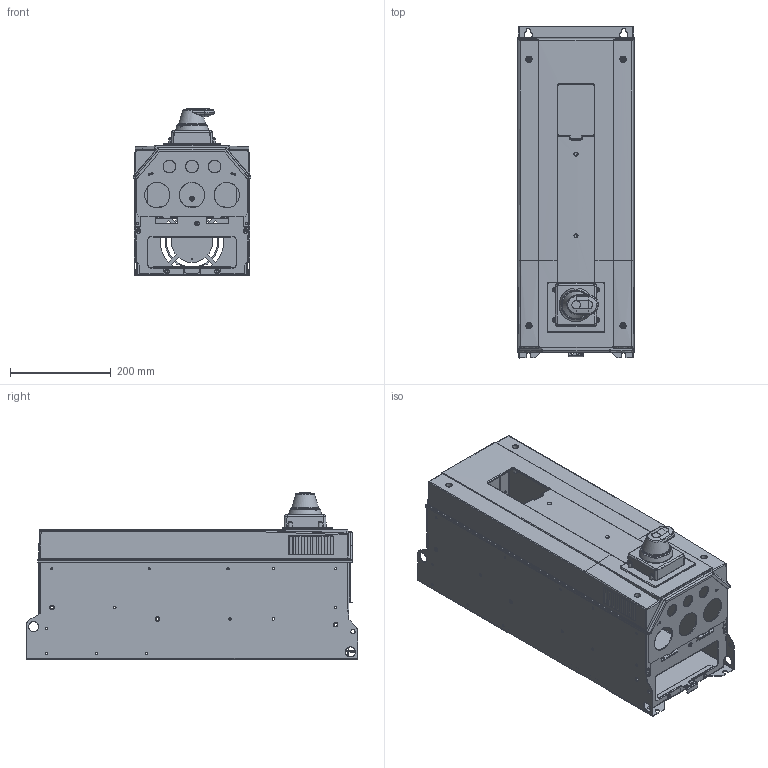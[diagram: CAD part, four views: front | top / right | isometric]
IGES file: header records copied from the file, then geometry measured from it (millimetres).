
Global section: file name: C:\temp\3D mechanics (extra.vacon)\Agileen\MR7\MR7_Simplified_Model_Main_Switch_igs.igs; native system: NX V6.0; preprocessor: SIEMENS UGS NX 6.0; date: 20121213.094317; units: millimetre
Bounding box: 234 x 660 x 331.62 mm (x, y, z)
Surface area: 1549929.3 mm2 (no closed solid volume)
Topology: 0 solids, 0 shells, 1982 faces, 13512 edges, 13177 vertices
Faces by surface type: bspline 1982
